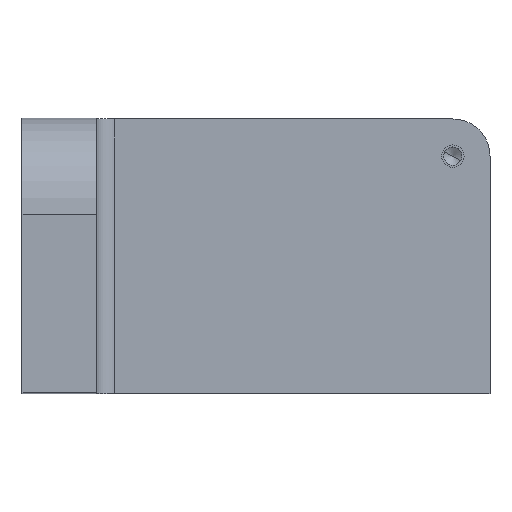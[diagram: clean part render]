
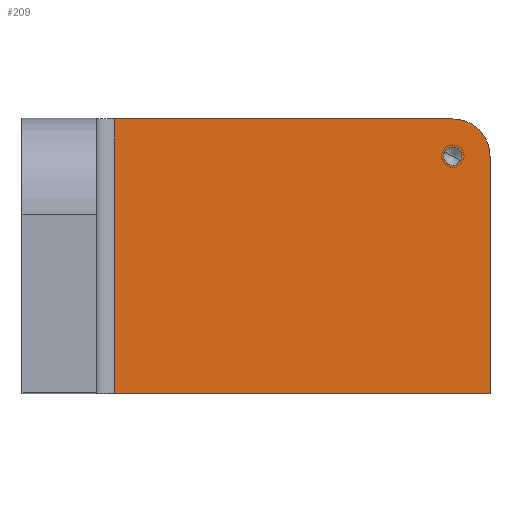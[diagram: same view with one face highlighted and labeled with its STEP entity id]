
A CAD part, top view. The second image highlights one B-rep face of the part: STEP entity #209.
In plain terms, the highlighted planar face has unit normal (0, 0, 1).
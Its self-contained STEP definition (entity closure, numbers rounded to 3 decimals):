
#144=CARTESIAN_POINT('Axis2P3D Location',(0.,0.,20.)) ;
#149=CARTESIAN_POINT('Line Origine',(75.5,0.,20.)) ;
#153=CARTESIAN_POINT('Vertex',(25.,0.,20.)) ;
#155=CARTESIAN_POINT('Vertex',(126.,0.,20.)) ;
#158=CARTESIAN_POINT('Line Origine',(126.,32.,20.)) ;
#162=CARTESIAN_POINT('Vertex',(126.,64.,20.)) ;
#165=CARTESIAN_POINT('Axis2P3D Location',(116.,64.,20.)) ;
#169=CARTESIAN_POINT('Vertex',(116.,74.,20.)) ;
#172=CARTESIAN_POINT('Line Origine',(70.5,74.,20.)) ;
#176=CARTESIAN_POINT('Vertex',(25.,74.,20.)) ;
#179=CARTESIAN_POINT('Line Origine',(25.,37.,20.)) ;
#191=CARTESIAN_POINT('Axis2P3D Location',(116.,64.,20.)) ;
#195=CARTESIAN_POINT('Vertex',(113.842,65.179,20.)) ;
#197=CARTESIAN_POINT('Vertex',(118.158,62.821,20.)) ;
#200=CARTESIAN_POINT('Axis2P3D Location',(116.,64.,20.)) ;
#145=DIRECTION('Axis2P3D Direction',(0.,0.,1.)) ;
#146=DIRECTION('Axis2P3D XDirection',(1.,0.,0.)) ;
#150=DIRECTION('Vector Direction',(1.,0.,0.)) ;
#159=DIRECTION('Vector Direction',(0.,1.,0.)) ;
#166=DIRECTION('Axis2P3D Direction',(0.,0.,1.)) ;
#173=DIRECTION('Vector Direction',(-1.,0.,0.)) ;
#180=DIRECTION('Vector Direction',(0.,-1.,0.)) ;
#192=DIRECTION('Axis2P3D Direction',(0.,0.,1.)) ;
#201=DIRECTION('Axis2P3D Direction',(0.,0.,1.)) ;
#147=AXIS2_PLACEMENT_3D('Plane Axis2P3D',#144,#145,#146) ;
#167=AXIS2_PLACEMENT_3D('Circle Axis2P3D',#165,#166,$) ;
#193=AXIS2_PLACEMENT_3D('Circle Axis2P3D',#191,#192,$) ;
#202=AXIS2_PLACEMENT_3D('Circle Axis2P3D',#200,#201,$) ;
#185=ORIENTED_EDGE('',*,*,#157,.T.) ;
#186=ORIENTED_EDGE('',*,*,#164,.T.) ;
#187=ORIENTED_EDGE('',*,*,#171,.T.) ;
#188=ORIENTED_EDGE('',*,*,#178,.T.) ;
#189=ORIENTED_EDGE('',*,*,#183,.F.) ;
#206=ORIENTED_EDGE('',*,*,#199,.F.) ;
#207=ORIENTED_EDGE('',*,*,#204,.F.) ;
#208=FACE_BOUND('',#205,.T.) ;
#151=VECTOR('Line Direction',#150,1.) ;
#160=VECTOR('Line Direction',#159,1.) ;
#174=VECTOR('Line Direction',#173,1.) ;
#181=VECTOR('Line Direction',#180,1.) ;
#209=ADVANCED_FACE('PartBody',(#190,#208),#148,.T.) ;
#168=CIRCLE('generated circle',#167,10.) ;
#194=CIRCLE('generated circle',#193,2.459) ;
#203=CIRCLE('generated circle',#202,2.459) ;
#157=EDGE_CURVE('',#154,#156,#152,.T.) ;
#164=EDGE_CURVE('',#156,#163,#161,.T.) ;
#171=EDGE_CURVE('',#163,#170,#168,.T.) ;
#178=EDGE_CURVE('',#170,#177,#175,.T.) ;
#183=EDGE_CURVE('',#154,#177,#182,.F.) ;
#199=EDGE_CURVE('',#196,#198,#194,.T.) ;
#204=EDGE_CURVE('',#198,#196,#203,.T.) ;
#184=EDGE_LOOP('',(#185,#186,#187,#188,#189)) ;
#205=EDGE_LOOP('',(#206,#207)) ;
#190=FACE_OUTER_BOUND('',#184,.T.) ;
#152=LINE('Line',#149,#151) ;
#161=LINE('Line',#158,#160) ;
#175=LINE('Line',#172,#174) ;
#182=LINE('Line',#179,#181) ;
#148=PLANE('',#147) ;
#154=VERTEX_POINT('',#153) ;
#156=VERTEX_POINT('',#155) ;
#163=VERTEX_POINT('',#162) ;
#170=VERTEX_POINT('',#169) ;
#177=VERTEX_POINT('',#176) ;
#196=VERTEX_POINT('',#195) ;
#198=VERTEX_POINT('',#197) ;
